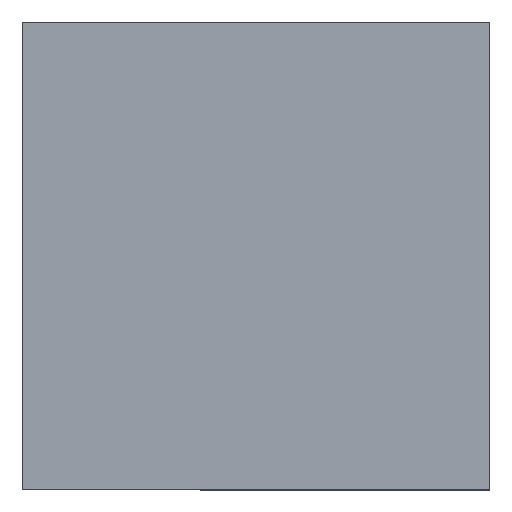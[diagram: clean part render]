
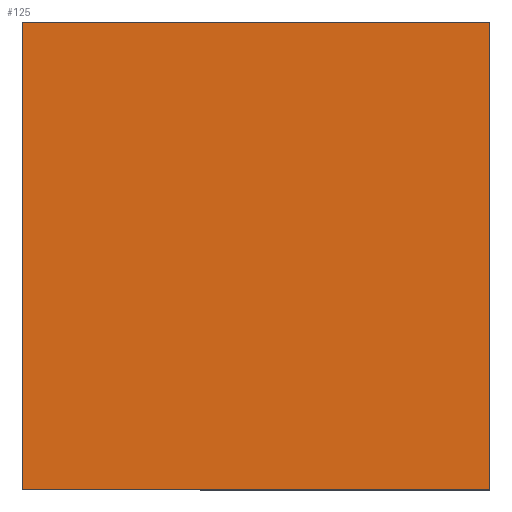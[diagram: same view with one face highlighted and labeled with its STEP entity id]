
A CAD part, top view. The second image highlights one B-rep face of the part: STEP entity #125.
In plain terms, the highlighted planar face has unit normal (0, 0, 1).
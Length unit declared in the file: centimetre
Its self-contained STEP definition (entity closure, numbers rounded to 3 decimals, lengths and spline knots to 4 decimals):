
#2 = VERTEX_POINT ( 'NONE', #6 ) ;
#6 = CARTESIAN_POINT ( 'NONE',  ( 1000., 0., 1000. ) ) ;
#53 = VECTOR ( 'NONE', #79, 100. ) ;
#55 = DIRECTION ( 'NONE',  ( 0., 0., 1. ) ) ;
#60 = VERTEX_POINT ( 'NONE', #96 ) ;
#72 = EDGE_CURVE ( 'NONE', #266, #60, #209, .T. ) ;
#79 = DIRECTION ( 'NONE',  ( 1., 0., 0. ) ) ;
#96 = CARTESIAN_POINT ( 'NONE',  ( 0., 1000., 1000. ) ) ;
#100 = AXIS2_PLACEMENT_3D ( 'NONE', #423, #55, #427 ) ;
#121 = DIRECTION ( 'NONE',  ( 0., -1., 0. ) ) ;
#125 = ADVANCED_FACE ( 'NONE', ( #191 ), #326, .T. ) ;
#154 = CARTESIAN_POINT ( 'NONE',  ( 0., 1000., 1000. ) ) ;
#159 = ORIENTED_EDGE ( 'NONE', *, *, #417, .T. ) ;
#163 = ORIENTED_EDGE ( 'NONE', *, *, #359, .T. ) ;
#170 = ORIENTED_EDGE ( 'NONE', *, *, #192, .T. ) ;
#172 = VECTOR ( 'NONE', #255, 100. ) ;
#191 = FACE_OUTER_BOUND ( 'NONE', #337, .T. ) ;
#192 = EDGE_CURVE ( 'NONE', #60, #368, #194, .T. ) ;
#194 = LINE ( 'NONE', #154, #196 ) ;
#196 = VECTOR ( 'NONE', #121, 100. ) ;
#209 = LINE ( 'NONE', #272, #172 ) ;
#215 = DIRECTION ( 'NONE',  ( 0., 1., 0. ) ) ;
#216 = CARTESIAN_POINT ( 'NONE',  ( 0., 0., 1000. ) ) ;
#227 = VECTOR ( 'NONE', #215, 100. ) ;
#251 = LINE ( 'NONE', #415, #53 ) ;
#255 = DIRECTION ( 'NONE',  ( -1., 0., 0. ) ) ;
#266 = VERTEX_POINT ( 'NONE', #409 ) ;
#272 = CARTESIAN_POINT ( 'NONE',  ( 0., 1000., 1000. ) ) ;
#286 = CARTESIAN_POINT ( 'NONE',  ( 1000., 1000., 1000. ) ) ;
#326 = PLANE ( 'NONE',  #100 ) ;
#337 = EDGE_LOOP ( 'NONE', ( #170, #163, #159, #431 ) ) ;
#347 = LINE ( 'NONE', #286, #227 ) ;
#359 = EDGE_CURVE ( 'NONE', #368, #2, #251, .T. ) ;
#368 = VERTEX_POINT ( 'NONE', #216 ) ;
#409 = CARTESIAN_POINT ( 'NONE',  ( 1000., 1000., 1000. ) ) ;
#415 = CARTESIAN_POINT ( 'NONE',  ( 0., 0., 1000. ) ) ;
#417 = EDGE_CURVE ( 'NONE', #2, #266, #347, .T. ) ;
#423 = CARTESIAN_POINT ( 'NONE',  ( 0., 0., 1000. ) ) ;
#427 = DIRECTION ( 'NONE',  ( 1., 0., 0. ) ) ;
#431 = ORIENTED_EDGE ( 'NONE', *, *, #72, .T. ) ;
